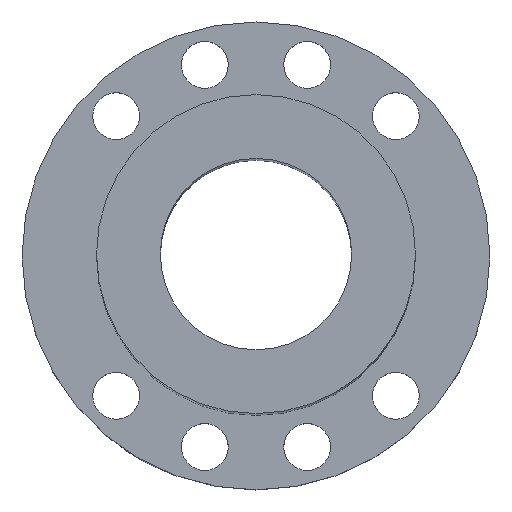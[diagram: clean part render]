
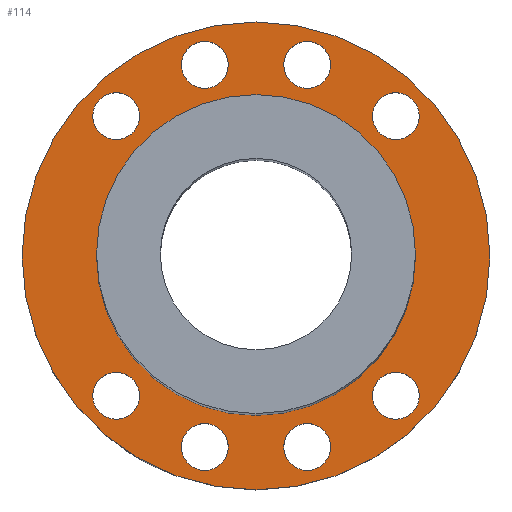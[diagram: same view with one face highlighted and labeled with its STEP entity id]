
A CAD part, top view. The second image highlights one B-rep face of the part: STEP entity #114.
In plain terms, the highlighted planar face has unit normal (0, 0, 1).
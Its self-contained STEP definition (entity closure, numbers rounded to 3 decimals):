
#99=PLANE('',#401);
#114=ADVANCED_FACE('',(#169,#170,#171,#172,#173,#174,#175,#176,#177,#178),
#99,.T.);
#169=FACE_BOUND('',#221,.T.);
#170=FACE_BOUND('',#222,.T.);
#171=FACE_BOUND('',#223,.T.);
#172=FACE_BOUND('',#224,.T.);
#173=FACE_BOUND('',#225,.T.);
#174=FACE_BOUND('',#226,.T.);
#175=FACE_BOUND('',#227,.T.);
#176=FACE_BOUND('',#228,.T.);
#177=FACE_BOUND('',#229,.T.);
#178=FACE_BOUND('',#230,.T.);
#221=EDGE_LOOP('',(#273));
#222=EDGE_LOOP('',(#274));
#223=EDGE_LOOP('',(#275));
#224=EDGE_LOOP('',(#276));
#225=EDGE_LOOP('',(#277));
#226=EDGE_LOOP('',(#278));
#227=EDGE_LOOP('',(#279));
#228=EDGE_LOOP('',(#280));
#229=EDGE_LOOP('',(#281));
#230=EDGE_LOOP('',(#282));
#273=ORIENTED_EDGE('',*,*,#316,.T.);
#274=ORIENTED_EDGE('',*,*,#318,.T.);
#275=ORIENTED_EDGE('',*,*,#337,.T.);
#276=ORIENTED_EDGE('',*,*,#336,.T.);
#277=ORIENTED_EDGE('',*,*,#335,.F.);
#278=ORIENTED_EDGE('',*,*,#334,.F.);
#279=ORIENTED_EDGE('',*,*,#333,.F.);
#280=ORIENTED_EDGE('',*,*,#332,.F.);
#281=ORIENTED_EDGE('',*,*,#331,.T.);
#282=ORIENTED_EDGE('',*,*,#338,.T.);
#290=VERTEX_POINT('',#495);
#292=VERTEX_POINT('',#557);
#305=VERTEX_POINT('',#644);
#306=VERTEX_POINT('',#647);
#307=VERTEX_POINT('',#650);
#308=VERTEX_POINT('',#653);
#309=VERTEX_POINT('',#656);
#310=VERTEX_POINT('',#659);
#311=VERTEX_POINT('',#662);
#312=VERTEX_POINT('',#665);
#316=EDGE_CURVE('',#290,#290,#342,.T.);
#318=EDGE_CURVE('',#292,#292,#343,.T.);
#331=EDGE_CURVE('',#305,#305,#355,.T.);
#332=EDGE_CURVE('',#306,#306,#356,.T.);
#333=EDGE_CURVE('',#307,#307,#357,.T.);
#334=EDGE_CURVE('',#308,#308,#358,.T.);
#335=EDGE_CURVE('',#309,#309,#359,.T.);
#336=EDGE_CURVE('',#310,#310,#360,.T.);
#337=EDGE_CURVE('',#311,#311,#361,.T.);
#338=EDGE_CURVE('',#312,#312,#362,.T.);
#342=CIRCLE('',#367,55.);
#343=CIRCLE('',#369,37.5);
#355=CIRCLE('',#385,5.5);
#356=CIRCLE('',#387,5.5);
#357=CIRCLE('',#389,5.5);
#358=CIRCLE('',#391,5.5);
#359=CIRCLE('',#393,5.5);
#360=CIRCLE('',#395,5.5);
#361=CIRCLE('',#397,5.5);
#362=CIRCLE('',#399,5.5);
#367=AXIS2_PLACEMENT_3D('',#494,#411,#412);
#369=AXIS2_PLACEMENT_3D('',#556,#415,#416);
#385=AXIS2_PLACEMENT_3D('',#643,#447,#448);
#387=AXIS2_PLACEMENT_3D('',#646,#451,#452);
#389=AXIS2_PLACEMENT_3D('',#649,#455,#456);
#391=AXIS2_PLACEMENT_3D('',#652,#459,#460);
#393=AXIS2_PLACEMENT_3D('',#655,#463,#464);
#395=AXIS2_PLACEMENT_3D('',#658,#467,#468);
#397=AXIS2_PLACEMENT_3D('',#661,#471,#472);
#399=AXIS2_PLACEMENT_3D('',#664,#475,#476);
#401=AXIS2_PLACEMENT_3D('',#667,#479,#480);
#411=DIRECTION('',(0.,0.,1.));
#412=DIRECTION('',(1.,0.,0.));
#415=DIRECTION('',(0.,0.,-1.));
#416=DIRECTION('',(1.,0.,0.));
#447=DIRECTION('',(0.,0.,-1.));
#448=DIRECTION('',(1.,0.,0.));
#451=DIRECTION('',(0.,0.,1.));
#452=DIRECTION('',(1.,0.,0.));
#455=DIRECTION('',(0.,0.,1.));
#456=DIRECTION('',(-1.,0.,0.));
#459=DIRECTION('',(0.,0.,1.));
#460=DIRECTION('',(1.,0.,0.));
#463=DIRECTION('',(0.,0.,1.));
#464=DIRECTION('',(-1.,0.,0.));
#467=DIRECTION('',(0.,0.,-1.));
#468=DIRECTION('',(-1.,0.,0.));
#471=DIRECTION('',(0.,0.,-1.));
#472=DIRECTION('',(1.,0.,0.));
#475=DIRECTION('',(0.,0.,-1.));
#476=DIRECTION('',(-1.,0.,0.));
#479=DIRECTION('',(0.,0.,1.));
#480=DIRECTION('',(1.,0.,0.));
#494=CARTESIAN_POINT('',(0.,0.,16.));
#495=CARTESIAN_POINT('',(55.,0.,16.));
#556=CARTESIAN_POINT('',(0.,0.,16.));
#557=CARTESIAN_POINT('',(37.5,0.,16.));
#643=CARTESIAN_POINT('',(-32.88,-32.88,16.));
#644=CARTESIAN_POINT('',(-27.38,-32.88,16.));
#646=CARTESIAN_POINT('',(-32.88,32.88,16.));
#647=CARTESIAN_POINT('',(-27.38,32.88,16.));
#649=CARTESIAN_POINT('',(12.035,-44.916,16.));
#650=CARTESIAN_POINT('',(6.535,-44.916,16.));
#652=CARTESIAN_POINT('',(-12.035,44.916,16.));
#653=CARTESIAN_POINT('',(-6.535,44.916,16.));
#655=CARTESIAN_POINT('',(32.88,-32.88,16.));
#656=CARTESIAN_POINT('',(27.38,-32.88,16.));
#658=CARTESIAN_POINT('',(32.88,32.88,16.));
#659=CARTESIAN_POINT('',(27.38,32.88,16.));
#661=CARTESIAN_POINT('',(-12.035,-44.916,16.));
#662=CARTESIAN_POINT('',(-6.535,-44.916,16.));
#664=CARTESIAN_POINT('',(12.035,44.916,16.));
#665=CARTESIAN_POINT('',(6.535,44.916,16.));
#667=CARTESIAN_POINT('',(-4.012,-14.972,16.));
